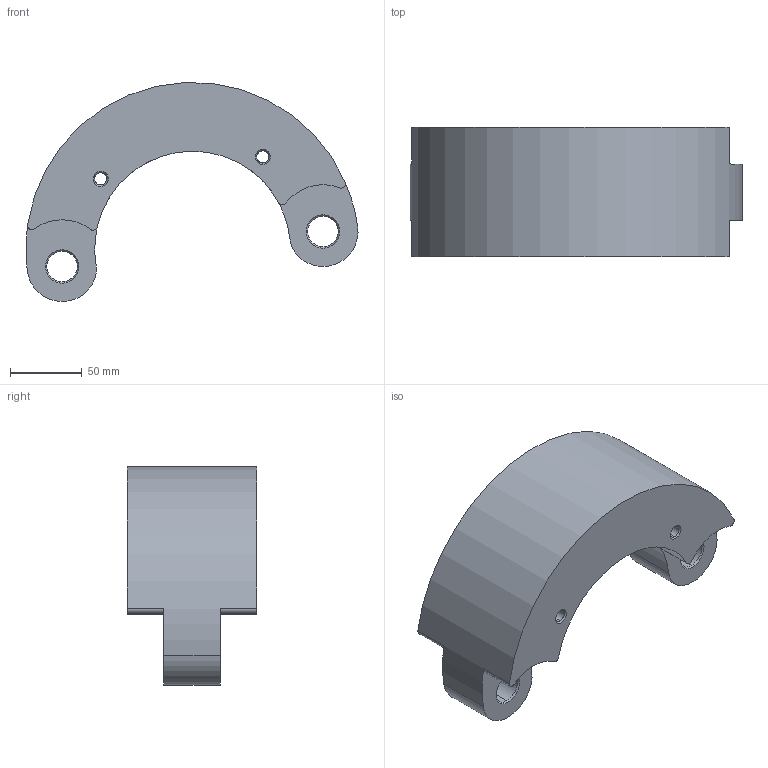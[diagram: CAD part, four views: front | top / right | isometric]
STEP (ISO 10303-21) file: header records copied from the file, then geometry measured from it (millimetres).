
FILE_DESCRIPTION (( 'STEP AP214' ), '1' );
FILE_NAME ('YYDK-500-0035 縐遠(500T).STEP', '2024-12-12T08:27:30', ( 'Windows 蚚誧' ), ( '' ), 'SwSTEP 2.0', 'SolidWorks 2020', '' );
FILE_SCHEMA (( 'AUTOMOTIVE_DESIGN' ));
Length unit declared in the file: millimetre
Products named in the file (1): YYDK-500-0035 縐遠(500T)
Bounding box: 230.82 x 90 x 152.21 mm (x, y, z)
Volume: 1037914.6 mm3; surface area: 103019.7 mm2
Topology: 1 solids, 1 shells, 69 faces, 179 edges, 114 vertices
Faces by surface type: cylinder 41, cone 16, plane 8, bspline 4
Entity records: 7322 total; most frequent: CARTESIAN_POINT 5548, DIRECTION 381, ORIENTED_EDGE 358, EDGE_CURVE 179, AXIS2_PLACEMENT_3D 160, VERTEX_POINT 114, CIRCLE 94, EDGE_LOOP 83
